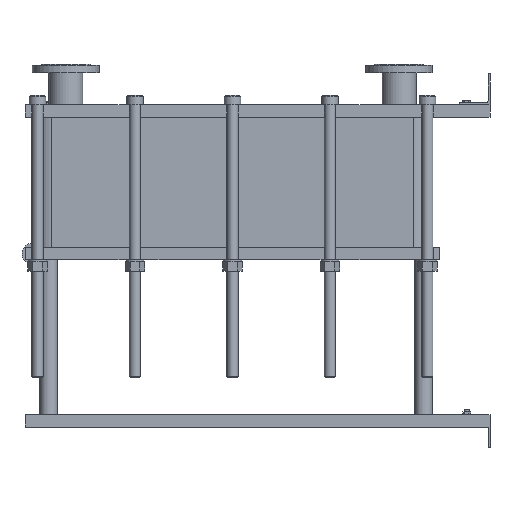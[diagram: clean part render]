
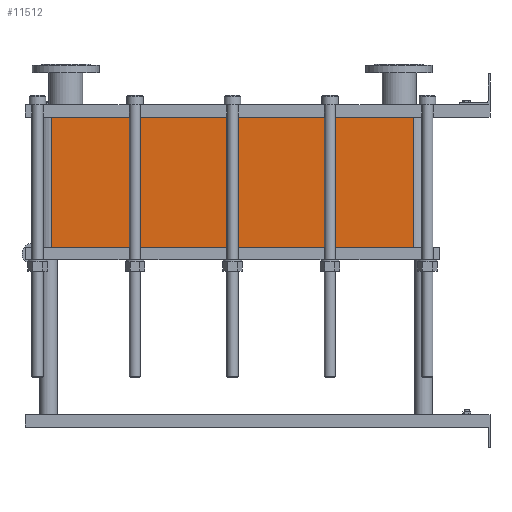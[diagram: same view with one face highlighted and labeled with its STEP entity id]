
A CAD part, left-side view. The second image highlights one B-rep face of the part: STEP entity #11512.
In plain terms, the highlighted planar face has unit normal (-1, 0, 0).
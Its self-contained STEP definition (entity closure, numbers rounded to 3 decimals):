
#1129=LINE('',#23232,#2102);
#1130=LINE('',#23236,#2103);
#1131=LINE('',#23238,#2104);
#1132=LINE('',#23239,#2105);
#2102=VECTOR('',#15887,10.);
#2103=VECTOR('',#15892,10.);
#2104=VECTOR('',#15893,10.);
#2105=VECTOR('',#15894,10.);
#3267=FACE_OUTER_BOUND('',#4093,.T.);
#4093=EDGE_LOOP('',(#10103,#10104,#10105,#10106));
#5642=VERTEX_POINT('',#23229);
#5643=VERTEX_POINT('',#23231);
#5644=VERTEX_POINT('',#23235);
#5645=VERTEX_POINT('',#23237);
#7159=EDGE_CURVE('',#5643,#5642,#1129,.T.);
#7161=EDGE_CURVE('',#5642,#5644,#1130,.T.);
#7162=EDGE_CURVE('',#5645,#5644,#1131,.T.);
#7163=EDGE_CURVE('',#5645,#5643,#1132,.T.);
#10103=ORIENTED_EDGE('',*,*,#7161,.T.);
#10104=ORIENTED_EDGE('',*,*,#7162,.F.);
#10105=ORIENTED_EDGE('',*,*,#7163,.T.);
#10106=ORIENTED_EDGE('',*,*,#7159,.T.);
#10857=PLANE('',#12751);
#11512=ADVANCED_FACE('',(#3267),#10857,.T.);
#12751=AXIS2_PLACEMENT_3D('',#23234,#15890,#15891);
#15887=DIRECTION('',(0.,0.,-1.));
#15890=DIRECTION('center_axis',(-1.,0.,0.));
#15891=DIRECTION('ref_axis',(0.,1.,0.));
#15892=DIRECTION('',(0.,-1.,0.));
#15893=DIRECTION('',(0.,0.,-1.));
#15894=DIRECTION('',(0.,1.,0.));
#23229=CARTESIAN_POINT('',(-200.,1414.,-420.9));
#23231=CARTESIAN_POINT('',(-200.,1414.,0.));
#23232=CARTESIAN_POINT('',(-200.,1414.,0.));
#23234=CARTESIAN_POINT('Origin',(-200.,248.,0.));
#23235=CARTESIAN_POINT('',(-200.,248.,-420.9));
#23236=CARTESIAN_POINT('',(-200.,539.5,-420.9));
#23237=CARTESIAN_POINT('',(-200.,248.,0.));
#23238=CARTESIAN_POINT('',(-200.,248.,0.));
#23239=CARTESIAN_POINT('',(-200.,248.,0.));
